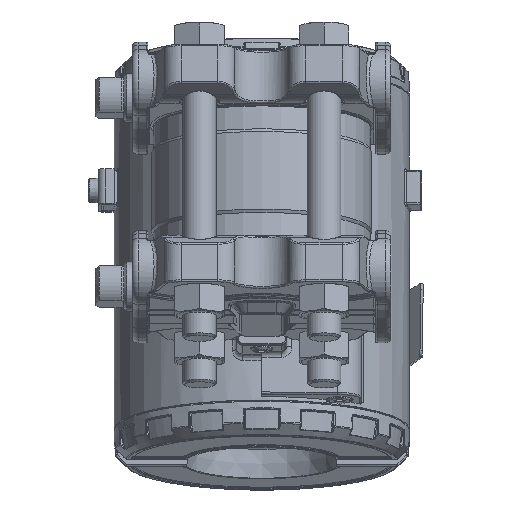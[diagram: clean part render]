
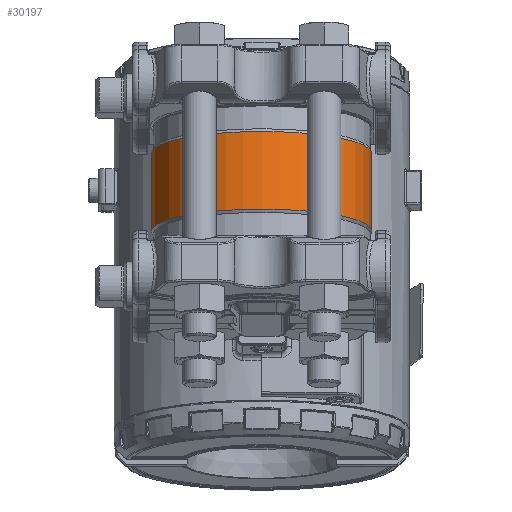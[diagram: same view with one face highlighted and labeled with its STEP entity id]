
A CAD part, left-side view. The second image highlights one B-rep face of the part: STEP entity #30197.
In plain terms, the highlighted cylindrical face has radius 31 mm (diameter 62 mm), a partial arc.
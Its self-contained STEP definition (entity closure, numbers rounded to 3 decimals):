
#1547=CYLINDRICAL_SURFACE('',#32713,31.);
#2418=FACE_OUTER_BOUND('',#4483,.T.);
#4483=EDGE_LOOP('',(#20163,#20164,#20165,#20166,#20167,#20168,#20169,#20170,
#20171,#20172));
#6634=LINE('',#46435,#7777);
#6635=LINE('',#46448,#7778);
#7777=VECTOR('',#36886,10.);
#7778=VECTOR('',#36887,10.);
#8917=CIRCLE('',#32693,31.);
#8920=CIRCLE('',#32696,31.);
#8926=CIRCLE('',#32706,31.);
#8927=CIRCLE('',#32707,31.);
#11354=B_SPLINE_CURVE_WITH_KNOTS('',3,(#46411,#46412,#46413,#46414,#46415),
 .UNSPECIFIED.,.F.,.F.,(4,1,4),(0.57,0.913,1.279),
 .UNSPECIFIED.);
#11356=B_SPLINE_CURVE_WITH_KNOTS('',3,(#46428,#46429,#46430,#46431,#46432,
#46433),.UNSPECIFIED.,.F.,.F.,(4,1,1,4),(0.,0.274,0.548,
0.708),.UNSPECIFIED.);
#11357=B_SPLINE_CURVE_WITH_KNOTS('',3,(#46436,#46437,#46438,#46439,#46440),
 .UNSPECIFIED.,.F.,.F.,(4,1,4),(0.57,0.913,1.279),
 .UNSPECIFIED.);
#11358=B_SPLINE_CURVE_WITH_KNOTS('',3,(#46442,#46443,#46444,#46445,#46446,
#46447),.UNSPECIFIED.,.F.,.F.,(4,1,1,4),(0.,0.274,
0.548,0.708),.UNSPECIFIED.);
#12418=VERTEX_POINT('',#46262);
#12420=VERTEX_POINT('',#46275);
#12421=VERTEX_POINT('',#46286);
#12433=VERTEX_POINT('',#46349);
#12434=VERTEX_POINT('',#46351);
#12435=VERTEX_POINT('',#46363);
#12437=VERTEX_POINT('',#46410);
#12440=VERTEX_POINT('',#46427);
#12441=VERTEX_POINT('',#46434);
#12442=VERTEX_POINT('',#46441);
#15283=EDGE_CURVE('',#12421,#12420,#8917,.T.);
#15287=EDGE_CURVE('',#12418,#12421,#8920,.T.);
#15299=EDGE_CURVE('',#12434,#12433,#8926,.T.);
#15302=EDGE_CURVE('',#12433,#12435,#8927,.T.);
#15306=EDGE_CURVE('',#12418,#12437,#11354,.T.);
#15310=EDGE_CURVE('',#12440,#12420,#11356,.T.);
#15311=EDGE_CURVE('',#12441,#12440,#6634,.T.);
#15312=EDGE_CURVE('',#12434,#12441,#11357,.T.);
#15313=EDGE_CURVE('',#12442,#12435,#11358,.T.);
#15314=EDGE_CURVE('',#12437,#12442,#6635,.T.);
#20163=ORIENTED_EDGE('',*,*,#15287,.T.);
#20164=ORIENTED_EDGE('',*,*,#15283,.T.);
#20165=ORIENTED_EDGE('',*,*,#15310,.F.);
#20166=ORIENTED_EDGE('',*,*,#15311,.F.);
#20167=ORIENTED_EDGE('',*,*,#15312,.F.);
#20168=ORIENTED_EDGE('',*,*,#15299,.T.);
#20169=ORIENTED_EDGE('',*,*,#15302,.T.);
#20170=ORIENTED_EDGE('',*,*,#15313,.F.);
#20171=ORIENTED_EDGE('',*,*,#15314,.F.);
#20172=ORIENTED_EDGE('',*,*,#15306,.F.);
#30197=ADVANCED_FACE('',(#2418),#1547,.T.);
#32693=AXIS2_PLACEMENT_3D('',#46287,#36840,#36841);
#32696=AXIS2_PLACEMENT_3D('',#46293,#36847,#36848);
#32706=AXIS2_PLACEMENT_3D('',#46352,#36869,#36870);
#32707=AXIS2_PLACEMENT_3D('',#46374,#36871,#36872);
#32713=AXIS2_PLACEMENT_3D('',#46426,#36884,#36885);
#36840=DIRECTION('center_axis',(0.,0.,1.));
#36841=DIRECTION('ref_axis',(-1.,0.,0.));
#36847=DIRECTION('center_axis',(0.,0.,1.));
#36848=DIRECTION('ref_axis',(-1.,0.,0.));
#36869=DIRECTION('center_axis',(0.,0.,-1.));
#36870=DIRECTION('ref_axis',(-1.,0.,0.));
#36871=DIRECTION('center_axis',(0.,0.,-1.));
#36872=DIRECTION('ref_axis',(-1.,0.,0.));
#36884=DIRECTION('center_axis',(0.,0.,1.));
#36885=DIRECTION('ref_axis',(-1.,0.,0.));
#36886=DIRECTION('',(0.,0.,-1.));
#36887=DIRECTION('',(0.,0.,1.));
#46262=CARTESIAN_POINT('',(29.591,9.241,-11.134));
#46275=CARTESIAN_POINT('',(29.591,-9.241,-11.134));
#46286=CARTESIAN_POINT('',(-31.,0.,-11.134));
#46287=CARTESIAN_POINT('Origin',(0.,0.,-11.134));
#46293=CARTESIAN_POINT('Origin',(0.,0.,-11.134));
#46349=CARTESIAN_POINT('',(-31.,0.,11.134));
#46351=CARTESIAN_POINT('',(29.591,-9.241,11.134));
#46352=CARTESIAN_POINT('Origin',(0.,0.,11.134));
#46363=CARTESIAN_POINT('',(29.591,9.241,11.134));
#46374=CARTESIAN_POINT('Origin',(0.,0.,11.134));
#46410=CARTESIAN_POINT('',(28.645,11.853,-5.));
#46411=CARTESIAN_POINT('Ctrl Pts',(29.591,9.241,-11.133));
#46412=CARTESIAN_POINT('Ctrl Pts',(29.348,10.019,-10.419));
#46413=CARTESIAN_POINT('Ctrl Pts',(28.86,11.344,-8.57));
#46414=CARTESIAN_POINT('Ctrl Pts',(28.645,11.853,-6.218));
#46415=CARTESIAN_POINT('Ctrl Pts',(28.645,11.853,-5.));
#46426=CARTESIAN_POINT('Origin',(0.,0.,0.));
#46427=CARTESIAN_POINT('',(28.645,-11.853,-5.));
#46428=CARTESIAN_POINT('Ctrl Pts',(28.645,-11.853,-5.));
#46429=CARTESIAN_POINT('Ctrl Pts',(28.645,-11.853,-5.913));
#46430=CARTESIAN_POINT('Ctrl Pts',(28.767,-11.563,-7.738));
#46431=CARTESIAN_POINT('Ctrl Pts',(29.174,-10.51,-9.79));
#46432=CARTESIAN_POINT('Ctrl Pts',(29.477,-9.605,-10.8));
#46433=CARTESIAN_POINT('Ctrl Pts',(29.59,-9.241,-11.134));
#46434=CARTESIAN_POINT('',(28.645,-11.853,5.));
#46435=CARTESIAN_POINT('',(28.645,-11.853,0.));
#46436=CARTESIAN_POINT('Ctrl Pts',(29.591,-9.241,11.133));
#46437=CARTESIAN_POINT('Ctrl Pts',(29.348,-10.019,10.419));
#46438=CARTESIAN_POINT('Ctrl Pts',(28.86,-11.344,8.57));
#46439=CARTESIAN_POINT('Ctrl Pts',(28.645,-11.853,6.218));
#46440=CARTESIAN_POINT('Ctrl Pts',(28.645,-11.853,5.));
#46441=CARTESIAN_POINT('',(28.645,11.853,5.));
#46442=CARTESIAN_POINT('Ctrl Pts',(28.645,11.853,5.));
#46443=CARTESIAN_POINT('Ctrl Pts',(28.645,11.853,5.913));
#46444=CARTESIAN_POINT('Ctrl Pts',(28.767,11.563,7.738));
#46445=CARTESIAN_POINT('Ctrl Pts',(29.174,10.51,9.79));
#46446=CARTESIAN_POINT('Ctrl Pts',(29.477,9.605,10.8));
#46447=CARTESIAN_POINT('Ctrl Pts',(29.59,9.241,11.134));
#46448=CARTESIAN_POINT('',(28.645,11.853,0.));
